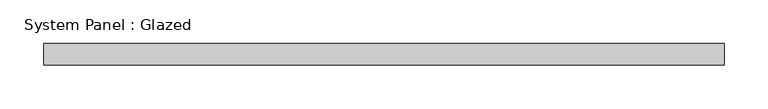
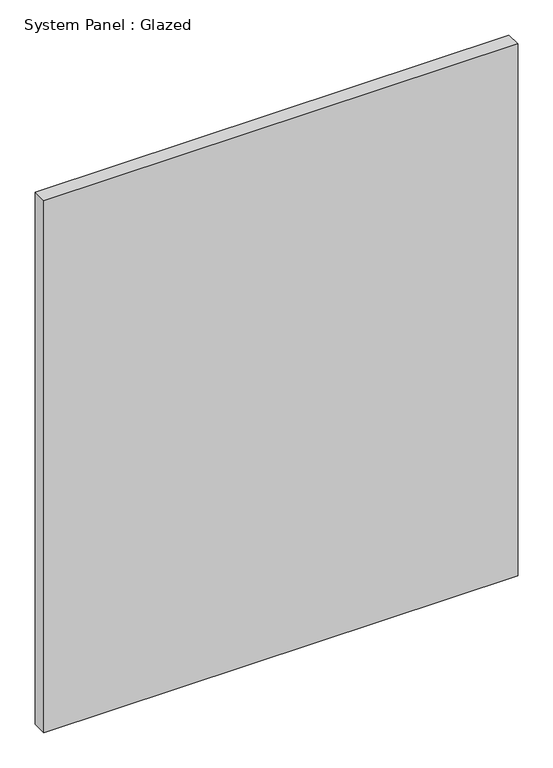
"""IFC4 building model written with IfcOpenShell, lengths in millimetres: plate geometry, System Panel : Glazed."""

from ifc_helpers import new_model, si_unit, origin, origin_with_axes, place, context, project, spatial, polyline, outline, extrude, source, transform, mapped, element, save


def system_panel_glazed_4431897c(model_context):
    return source(origin(), model_context, "Body", "SweptSolid", [
        extrude(outline(polyline([(390.0, 24.5), (-390.0, 24.5), (-390.0, 49.5), (390.0, 49.5), (390.0, 24.5)])), origin_with_axes(), (0.0, 0.0, 1.0), 925.0),
    ])


if __name__ == "__main__":
    model = new_model("IFC4")
    model_context = context("Model", 3, world=origin())
    ifc_project = project(units=[si_unit("LENGTHUNIT", "METRE", prefix="MILLI")], contexts=[model_context])
    site = spatial("IfcSite", under=ifc_project)
    building = spatial("IfcBuilding", under=site)
    placement = place(None, origin())
    system_panel_glazed_shape = system_panel_glazed_4431897c(model_context)
    element("IfcPlate", 1, ObjectType="System Panel : Glazed", at=placement, inside=building, context=model_context, shape_type="MappedRepresentation", body=[
        mapped(system_panel_glazed_shape, transform((0.0, 0.0, 0.0), x_axis=(1.0, 0.0, 0.0), y_axis=(0.0, 1.0, 0.0), z_axis=(0.0, 0.0, 1.0))),
    ])
    save(model, "model.ifc")
